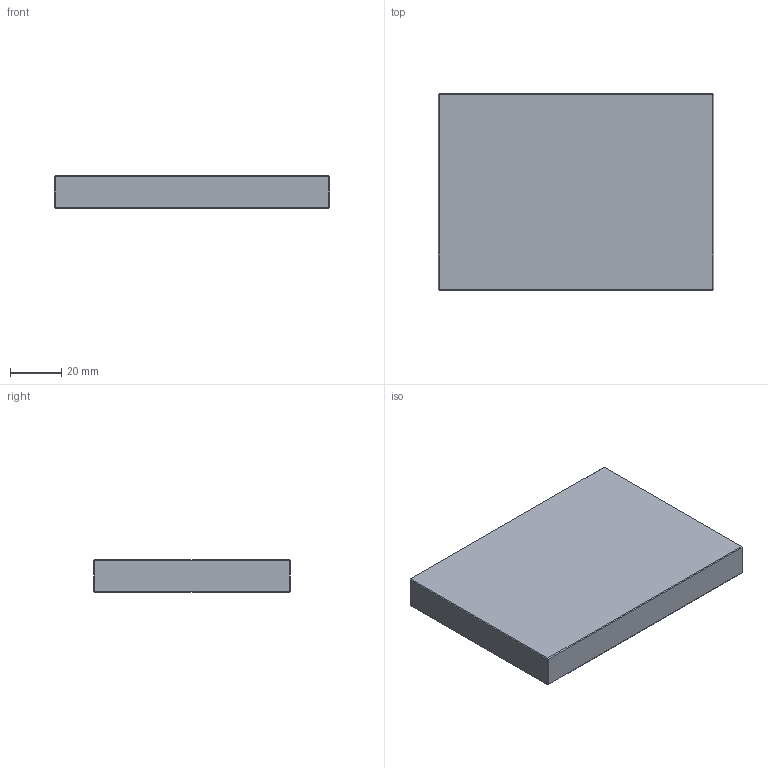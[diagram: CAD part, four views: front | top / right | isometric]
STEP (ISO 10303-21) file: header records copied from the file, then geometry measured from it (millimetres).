
FILE_DESCRIPTION(('Open CASCADE Model'),'2;1');
FILE_NAME('Open CASCADE Shape Model','2026-09-29T12:48:04',('Author'),( 'Open CASCADE'),'Open CASCADE STEP processor 7.9','Open CASCADE 7.9' ,'Unknown');
FILE_SCHEMA(('AUTOMOTIVE_DESIGN { 1 0 10303 214 1 1 1 1 }'));
Length unit declared in the file: millimetre
Products named in the file (1): Open CASCADE STEP translator 7.9 22
Bounding box: 107 x 76.2 x 12.7 mm (x, y, z)
Volume: 103485.8 mm3; surface area: 20776 mm2
Topology: 1 solids, 1 shells, 26 faces, 48 edges, 24 vertices
Faces by surface type: plane 26
Entity records: 1234 total; most frequent: DIRECTION 198, CARTESIAN_POINT 195, LINE 144, VECTOR 144, ORIENTED_EDGE 96, PCURVE 96, DEFINITIONAL_REPRESENTATION 96, EDGE_CURVE 48
